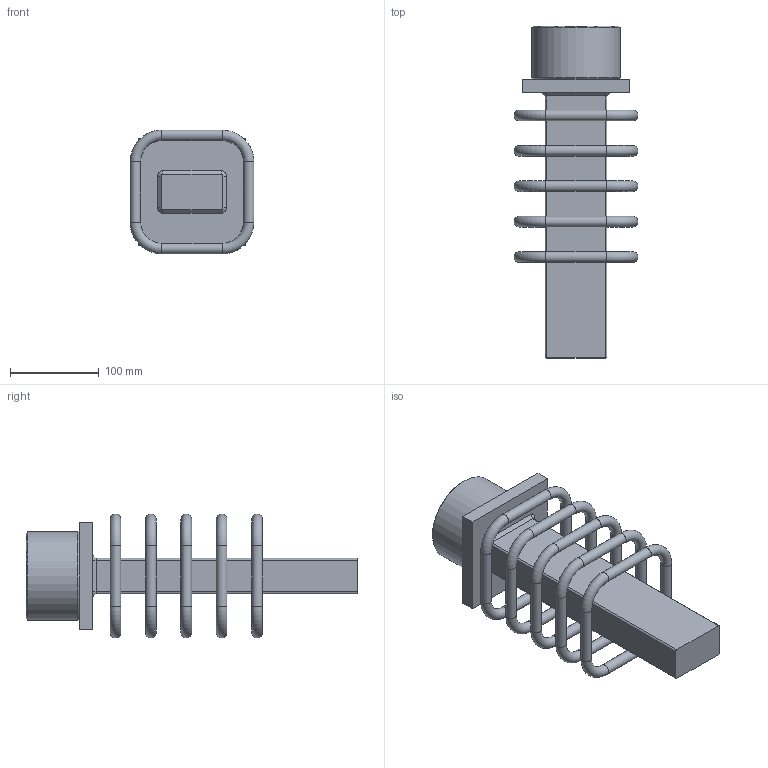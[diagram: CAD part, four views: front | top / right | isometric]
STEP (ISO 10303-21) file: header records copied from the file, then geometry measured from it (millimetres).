
FILE_DESCRIPTION(/* description */ (''),/* implementation_level */ '2;1');
FILE_NAME(/* name */ 'Z:\04 Publications\05 Give-out\BBR\6_3D_Models\BBR VT CONA CMB\01 x 206\BBR VT CONA CMB SP_01 x 206_Anchorage A Assembly.stp',/* time_stamp */ '2017-05-09T11:50:13+02:00',/* author */ ('IP'),/* organization */ (''),/* preprocessor_version */ 'ST-DEVELOPER v16.1',/* originating_system */ 'Autodesk Inventor 2016',/* authorisation */ '');
FILE_SCHEMA (('AUTOMOTIVE_DESIGN { 1 0 10303 214 3 1 1 }'));
Length unit declared in the file: millimetre
Products named in the file (1): BBR VT CONA CMB SP_01 x 206_Anchorage A Assembly
Bounding box: 140 x 375.1 x 140 mm (x, y, z)
Volume: 1787756.3 mm3; surface area: 206617.2 mm2
Topology: 6 solids, 6 shells, 705 faces, 1876 edges, 1234 vertices
Faces by surface type: plane 335, bspline 319, cylinder 25, torus 20, cone 6
Full cylindrical faces by diameter (mm): 12 x20, 100 x1
Entity records: 23883 total; most frequent: CARTESIAN_POINT 7920, ORIENTED_EDGE 3666, DIRECTION 2025, EDGE_CURVE 1833, VERTEX_POINT 1234, LINE 1139, VECTOR 1139, EDGE_LOOP 809
